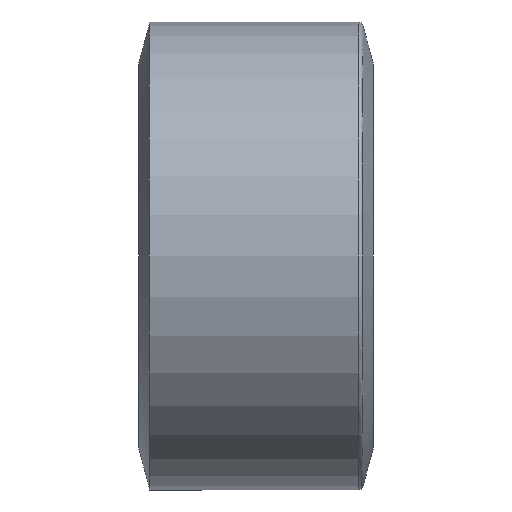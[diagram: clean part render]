
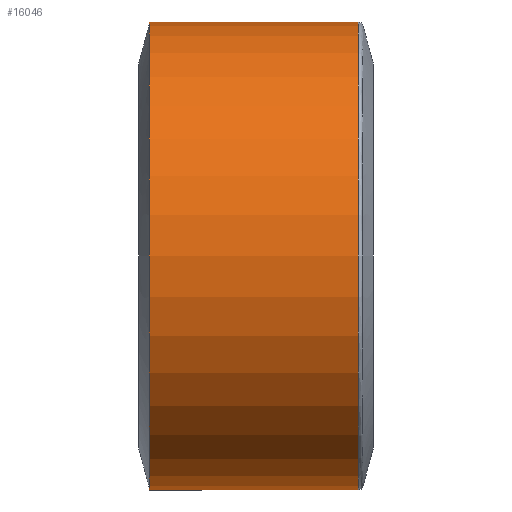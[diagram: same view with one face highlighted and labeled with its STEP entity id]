
A CAD part, front view. The second image highlights one B-rep face of the part: STEP entity #16046.
In plain terms, the highlighted cylindrical face has radius 40 mm (diameter 80 mm), a full revolution.
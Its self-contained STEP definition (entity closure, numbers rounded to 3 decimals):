
#15996=CARTESIAN_POINT('',(17.51,0.0,0.0));
#15997=DIRECTION('',(-1.0,0.0,0.0));
#15998=DIRECTION('',(0.0,-1.0,0.0));
#15999=AXIS2_PLACEMENT_3D('',#15996,#15997,#15998);
#16000=CYLINDRICAL_SURFACE('',#15999,40.0);
#16001=CARTESIAN_POINT('',(-18.258,-40.0,0.0));
#16002=VERTEX_POINT('',#16001);
#16003=CARTESIAN_POINT('',(17.51,-40.,0.0));
#16004=VERTEX_POINT('',#16003);
#16005=CARTESIAN_POINT('',(-18.258,-40.0,0.0));
#16006=DIRECTION('',(1.0,0.0,0.0));
#16007=VECTOR('',#16006,35.769);
#16008=LINE('',#16005,#16007);
#16009=EDGE_CURVE('',#16002,#16004,#16008,.T.);
#16010=ORIENTED_EDGE('',*,*,#16009,.T.);
#16011=CARTESIAN_POINT('',(17.51,40.,0.0));
#16012=VERTEX_POINT('',#16011);
#16013=CARTESIAN_POINT('',(17.51,0.0,0.0));
#16014=DIRECTION('',(-1.0,0.0,0.0));
#16015=DIRECTION('',(0.0,-1.0,0.0));
#16016=AXIS2_PLACEMENT_3D('',#16013,#16014,#16015);
#16017=CIRCLE('',#16016,40.);
#16018=EDGE_CURVE('',#16004,#16012,#16017,.T.);
#16019=ORIENTED_EDGE('',*,*,#16018,.T.);
#16020=CARTESIAN_POINT('',(17.51,0.0,0.0));
#16021=DIRECTION('',(-1.0,0.0,0.0));
#16022=DIRECTION('',(0.0,-1.0,0.0));
#16023=AXIS2_PLACEMENT_3D('',#16020,#16021,#16022);
#16024=CIRCLE('',#16023,40.);
#16025=EDGE_CURVE('',#16012,#16004,#16024,.T.);
#16026=ORIENTED_EDGE('',*,*,#16025,.T.);
#16027=ORIENTED_EDGE('',*,*,#16009,.F.);
#16028=CARTESIAN_POINT('',(-18.258,40.0,0.0));
#16029=VERTEX_POINT('',#16028);
#16030=CARTESIAN_POINT('',(-18.258,0.0,0.0));
#16031=DIRECTION('',(-1.0,0.0,0.0));
#16032=DIRECTION('',(0.0,-1.0,0.0));
#16033=AXIS2_PLACEMENT_3D('',#16030,#16031,#16032);
#16034=CIRCLE('',#16033,40.0);
#16035=EDGE_CURVE('',#16029,#16002,#16034,.T.);
#16036=ORIENTED_EDGE('',*,*,#16035,.F.);
#16037=CARTESIAN_POINT('',(-18.258,0.0,0.0));
#16038=DIRECTION('',(-1.0,0.0,0.0));
#16039=DIRECTION('',(0.0,-1.0,0.0));
#16040=AXIS2_PLACEMENT_3D('',#16037,#16038,#16039);
#16041=CIRCLE('',#16040,40.0);
#16042=EDGE_CURVE('',#16002,#16029,#16041,.T.);
#16043=ORIENTED_EDGE('',*,*,#16042,.F.);
#16044=EDGE_LOOP('',(#16010,#16019,#16026,#16027,#16036,#16043));
#16045=FACE_OUTER_BOUND('',#16044,.T.);
#16046=ADVANCED_FACE('',(#16045),#16000,.T.);
